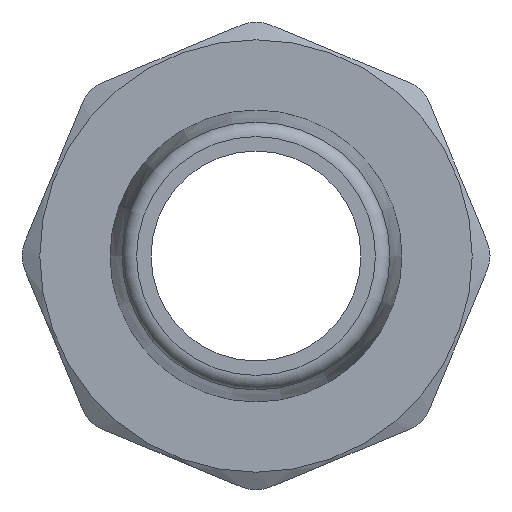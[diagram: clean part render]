
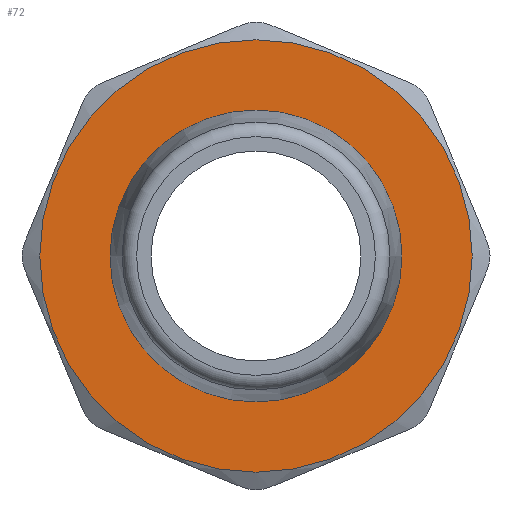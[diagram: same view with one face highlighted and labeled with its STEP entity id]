
A CAD part, front view. The second image highlights one B-rep face of the part: STEP entity #72.
In plain terms, the highlighted planar face has unit normal (0, -1, 0).
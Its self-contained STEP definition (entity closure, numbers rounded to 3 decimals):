
#72=ADVANCED_FACE('',(#301,#303),#305,.F.);
#301=FACE_BOUND('',#302,.T.);
#302=EDGE_LOOP('',(#506));
#303=FACE_BOUND('',#304,.T.);
#304=EDGE_LOOP('',(#507));
#305=PLANE('',#306);
#306=AXIS2_PLACEMENT_3D('',#307,#308,#309);
#307=CARTESIAN_POINT('',(0.,-15.,0.));
#308=DIRECTION('',(0.,1.,0.));
#309=DIRECTION('',(-1.,0.,0.));
#506=ORIENTED_EDGE('',*,*,#586,.T.);
#507=ORIENTED_EDGE('',*,*,#588,.F.);
#586=EDGE_CURVE('',#703,#703,#704,.F.);
#588=EDGE_CURVE('',#707,#707,#708,.T.);
#703=VERTEX_POINT('',#1955);
#704=CIRCLE('',#1956,11.85);
#707=VERTEX_POINT('',#1965);
#708=CIRCLE('',#1966,8.);
#1955=CARTESIAN_POINT('',(11.85,-15.,0.));
#1956=AXIS2_PLACEMENT_3D('',#1957,#1958,#1959);
#1957=CARTESIAN_POINT('',(0.,-15.,0.));
#1958=DIRECTION('',(0.,1.,0.));
#1959=DIRECTION('',(1.,0.,0.));
#1965=CARTESIAN_POINT('',(-8.,-15.,0.));
#1966=AXIS2_PLACEMENT_3D('',#1967,#1968,#1969);
#1967=CARTESIAN_POINT('',(0.,-15.,0.));
#1968=DIRECTION('',(0.,-1.,0.));
#1969=DIRECTION('',(-1.,0.,0.));
